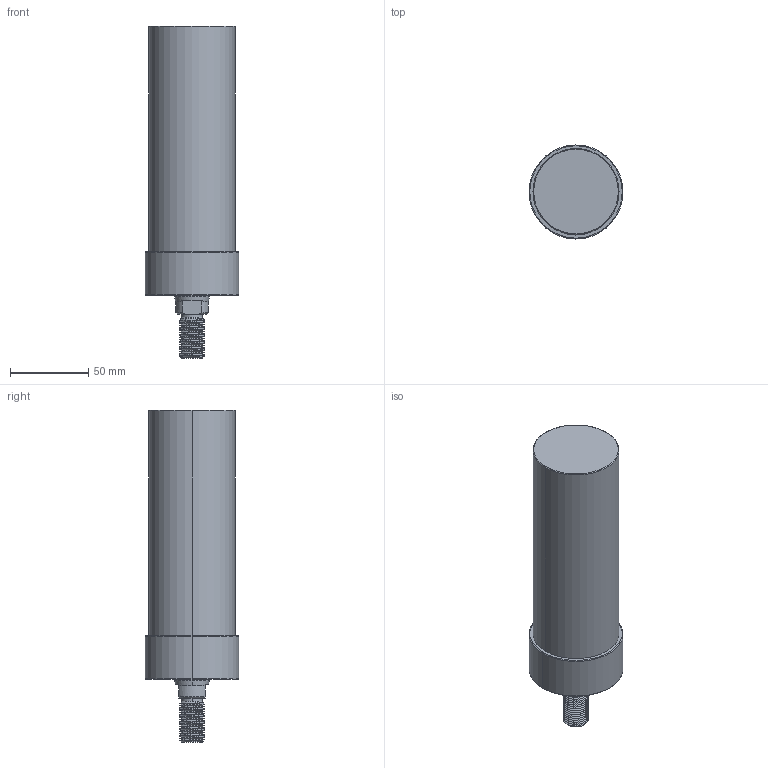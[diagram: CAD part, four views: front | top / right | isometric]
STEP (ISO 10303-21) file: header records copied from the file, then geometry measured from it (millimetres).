
FILE_DESCRIPTION (( 'STEP AP203' ), '1' );
FILE_NAME ('CLLU-055GT-115.STEP', '2020-01-16T01:55:33', ( '' ), ( '' ), 'SwSTEP 2.0', 'SolidWorks 2015', '' );
FILE_SCHEMA (( 'CONFIG_CONTROL_DESIGN' ));
Length unit declared in the file: millimetre
Products named in the file (1): CLLU-055GT-115
Bounding box: 60 x 60 x 212 mm (x, y, z)
Volume: 428531.7 mm3; surface area: 39880.3 mm2
Topology: 1 solids, 1 shells, 102 faces, 254 edges, 155 vertices
Faces by surface type: cylinder 56, cone 26, plane 12, torus 6, bspline 2
Entity records: 4899 total; most frequent: CARTESIAN_POINT 2608, ORIENTED_EDGE 492, DIRECTION 445, EDGE_CURVE 246, AXIS2_PLACEMENT_3D 178, VERTEX_POINT 155, EDGE_LOOP 111, FACE_OUTER_BOUND 102
